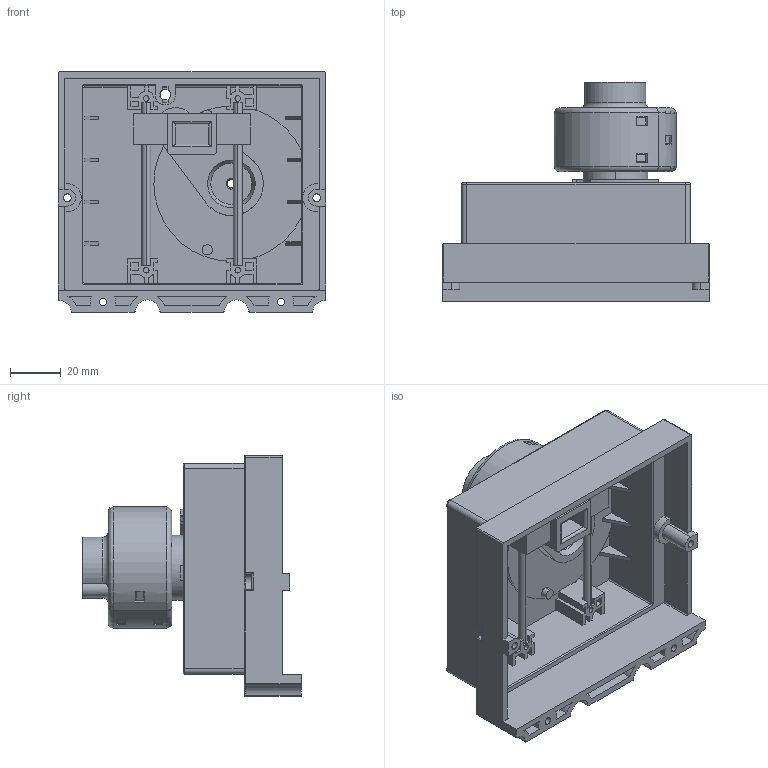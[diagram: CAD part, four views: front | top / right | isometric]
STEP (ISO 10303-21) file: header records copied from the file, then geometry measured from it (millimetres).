
FILE_DESCRIPTION((''),'2;1');
FILE_NAME('0001_ASM','2025-02-21T08:17:56',('gaoleixiao'),(''),'CREO PARAMETRIC BY PTC INC, 2020354','CREO PARAMETRIC BY PTC INC, 2020354','');
FILE_SCHEMA(('CONFIG_CONTROL_DESIGN'));
Length unit declared in the file: metre
Products named in the file (12): 0; 00; 25000; 2500; 1WL8_300_067-74; 1WL8_300_067-86; 1WL8_300_067-98; 1WL8_300_067-110; _10001_ASM; 0001_ASM
Assembly tree (13 placements, depth 3):
  0001_ASM
    _10001_ASM
      0  x2
      00
      00
      25000
      25000
      2500  x2
      1WL8_300_067-74
      1WL8_300_067-86
      1WL8_300_067-98
      1WL8_300_067-110
Bounding box: 105 x 86 x 94.5 mm (x, y, z)
Volume: 108381.1 mm3; surface area: 90377.5 mm2
Topology: 12 solids, 12 shells, 851 faces, 2361 edges, 1549 vertices
Faces by surface type: plane 505, cylinder 270, torus 44, cone 18, sphere 12, bspline 2
Entity records: 27615 total; most frequent: CARTESIAN_POINT 7153, DIRECTION 4387, ORIENTED_EDGE 4200, EDGE_CURVE 2100, AXIS2_PLACEMENT_3D 1542, VERTEX_POINT 1380, VECTOR 1303, LINE 1303
